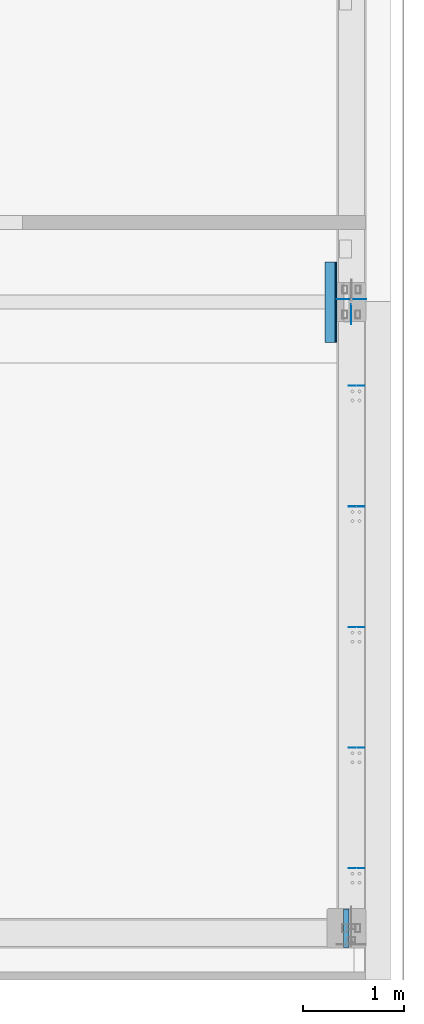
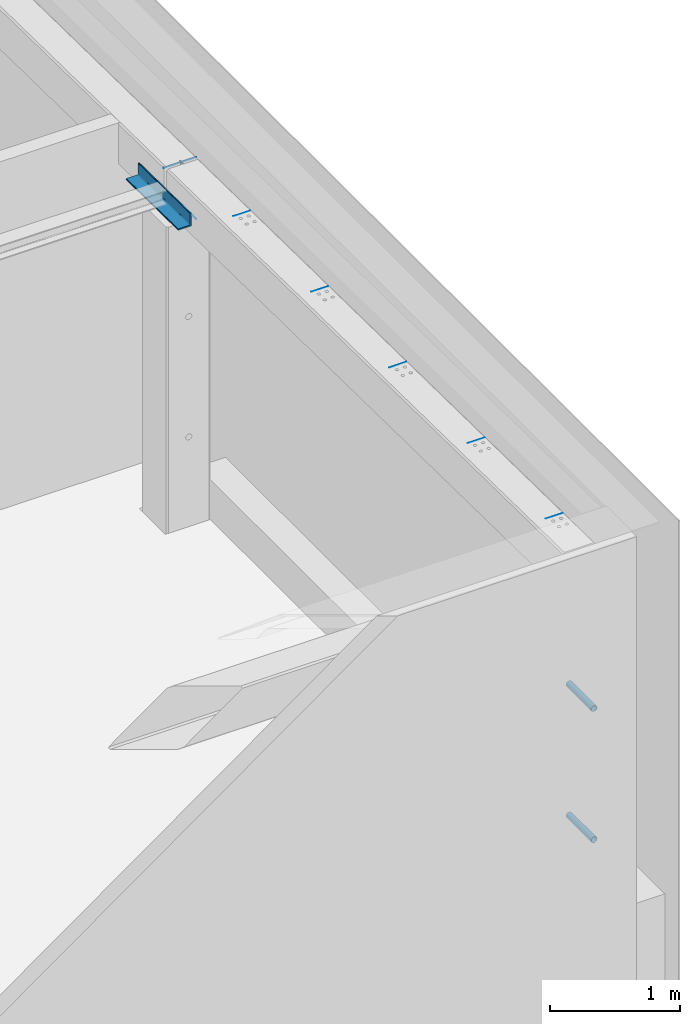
# One storey, part 26 of 186: 10 beams.
"""IFC4X3_ADD2 building model written with IfcOpenShell, lengths in millimetres."""

import ifcopenshell
import ifcopenshell.guid

model = None  # the IFC model being written
_history = None  # IfcOwnerHistory: only IFC2X3 demands one
_inside = {}  # id of a spatial element -> (the spatial element, [elements in it])
_under = {}  # id of a project, library or spatial element -> (it, [spatial elements below it])
_declared = {}  # id of a project -> (the project, [libraries it declares])
_typed = {}  # id of a type object -> (the type object, [elements of that type])
_made_of = {}  # id of a material, layer set ... -> (it, [elements and type objects made of it])


def new_model(schema):
    """Start an empty IFC model of exactly this schema.

    Asked for "IFC4X3", IfcOpenShell would pick the latest addendum, in which some entities
    have other attributes; the version numbers below select the first issue.
    IFC2X3 requires an IfcOwnerHistory on every rooted entity: one is made here for all.
    """
    global model, _history
    if schema == "IFC4X3":
        model = ifcopenshell.file(schema_version=(4, 3, 0, 0))
    else:
        model = ifcopenshell.file(schema=schema)
    _inside.clear()
    _under.clear()
    _declared.clear()
    _typed.clear()
    _made_of.clear()
    _history = None
    if model.schema == "IFC2X3":
        org = make("IfcOrganization", Name="unknown")
        user = make(
            "IfcPersonAndOrganization",
            ThePerson=make("IfcPerson", FamilyName="unknown"),
            TheOrganization=org,
        )
        app = make(
            "IfcApplication",
            ApplicationDeveloper=org,
            Version="unknown",
            ApplicationFullName="unknown",
            ApplicationIdentifier="unknown",
        )
        _history = make(
            "IfcOwnerHistory",
            OwningUser=user,
            OwningApplication=app,
            ChangeAction="ADDED",
            CreationDate=0,
        )
    return model


def make(cls, **values):
    """One entity of the class cls with the attributes given. An attribute that is None is left unset."""
    return model.create_entity(
        cls, **{name: value for name, value in values.items() if value is not None}
    )


def rooted(cls, **values):
    """An entity with a GlobalId (a new one), such as an element, a storey or a relation."""
    return make(cls, GlobalId=ifcopenshell.guid.new(), OwnerHistory=_history, **values)


def si_unit(unit_type, name, prefix=None):
    """IfcSIUnit, for example si_unit("LENGTHUNIT", "METRE", prefix="MILLI")."""
    return make("IfcSIUnit", UnitType=unit_type, Prefix=prefix, Name=name)


def assignment(units):
    """IfcUnitAssignment: the units of a project."""
    return None if units is None else make("IfcUnitAssignment", Units=units)


def point(xyz):
    """IfcCartesianPoint."""
    return None if xyz is None else make("IfcCartesianPoint", Coordinates=xyz)


def direction(xyz):
    """IfcDirection."""
    return None if xyz is None else make("IfcDirection", DirectionRatios=xyz)


def frame(location, z_axis=None, x_axis=None):
    """IfcAxis2Placement3D, a coordinate frame: its origin and axes. An axis left out is left unset."""
    return make(
        "IfcAxis2Placement3D",
        Location=point(location),
        Axis=direction(z_axis),
        RefDirection=direction(x_axis),
    )


def frame_2d(location, x_axis=None):
    """IfcAxis2Placement2D, a coordinate frame in the plane: its origin and x axis."""
    return make(
        "IfcAxis2Placement2D", Location=point(location), RefDirection=direction(x_axis)
    )


def origin_with_axes():
    """The frame at (0, 0, 0) with the z axis (0, 0, 1) and the x axis (1, 0, 0) written out."""
    return frame((0.0, 0.0, 0.0), z_axis=(0.0, 0.0, 1.0), x_axis=(1.0, 0.0, 0.0))


def place(relative_to, where):
    """IfcLocalPlacement: puts the frame where relative to a parent placement (None: the world)."""
    return make(
        "IfcLocalPlacement", PlacementRelTo=relative_to, RelativePlacement=where
    )


def context(
    kind, dimensions, precision=None, world=None, true_north=None, identifier=None
):
    """IfcGeometricRepresentationContext, for example the 3D "Model" context."""
    return make(
        "IfcGeometricRepresentationContext",
        ContextIdentifier=identifier,
        ContextType=kind,
        CoordinateSpaceDimension=dimensions,
        Precision=precision,
        WorldCoordinateSystem=world,
        TrueNorth=true_north,
    )


def subcontext(parent, identifier, kind, view, scale=None):
    """IfcGeometricRepresentationSubContext, for example "Body" below "Model"."""
    return make(
        "IfcGeometricRepresentationSubContext",
        ContextIdentifier=identifier,
        ContextType=kind,
        ParentContext=parent,
        TargetScale=scale,
        TargetView=view,
    )


def project(units=None, contexts=None):
    """IfcProject with its units and contexts."""
    return rooted(
        "IfcProject",
        Name="project",
        RepresentationContexts=contexts,
        UnitsInContext=assignment(units),
    )


def spatial(cls, under=None, at=None, **own):
    """A site, building, storey or space (cls), placed at a placement, below another one or the project."""
    s = rooted(cls, ObjectPlacement=at, **own)
    if under is not None:
        _under.setdefault(under.id(), (under, []))[1].append(s)
    return s


def profile(cls, at=None, kind="AREA", **sizes):
    """A parametric profile (cls). Its sizes go by their IFC names, for example OverallWidth=200.0."""
    return make(cls, ProfileType=kind, Position=at, **sizes)


def rectangle(**sizes):
    """IfcRectangleProfileDef."""
    return profile("IfcRectangleProfileDef", **sizes)


def hollow_circle(**sizes):
    """IfcCircleHollowProfileDef."""
    return profile("IfcCircleHollowProfileDef", **sizes)


def l_section(**sizes):
    """IfcLShapeProfileDef."""
    return profile("IfcLShapeProfileDef", **sizes)


def extrude(swept, where, along, depth):
    """IfcExtrudedAreaSolid: the profile swept, set in the frame where, extruded along a direction by depth."""
    return make(
        "IfcExtrudedAreaSolid",
        SweptArea=swept,
        Position=where,
        ExtrudedDirection=direction(along),
        Depth=depth,
    )


def shape(context_of_items, identifier, shape_type, items):
    """IfcShapeRepresentation: the items that make up one representation, for example the "Body"."""
    return make(
        "IfcShapeRepresentation",
        ContextOfItems=context_of_items,
        RepresentationIdentifier=identifier,
        RepresentationType=shape_type,
        Items=items,
    )


def material(Name=None, Category=None):
    """IfcMaterial."""
    return make("IfcMaterial", Name=Name, Category=Category)


def made_of(thing, what):
    """Note that an element or type object is made of a material, layer set ...; save() writes the relation."""
    if what is not None:
        _made_of.setdefault(what.id(), (what, []))[1].append(thing)
    return thing


def element(
    cls,
    number,
    at=None,
    inside=None,
    cuts=None,
    type_object=None,
    material=None,
    context=None,
    identifier="Body",
    shape_type=None,
    held_by="IfcProductDefinitionShape",
    body=None,
    shapes=None,
    **own,
):
    """One element of the class cls, such as IfcWall. Its Tag is "e" and its number.

    at: its placement. inside: the storey or other place that contains it. cuts: it is an
    opening in that element (IfcRelVoidsElement). A single representation is given by context,
    identifier, shape_type and body (its items); several are given by shapes. held_by: the class
    of the entity that holds the representations. save() writes the other relations.
    """
    e = rooted(cls, Tag="e%d" % number, ObjectPlacement=at, **own)
    if body is not None:
        shapes = [shape(context, identifier, shape_type, body)]
    if shapes is not None:
        e.Representation = make(held_by, Representations=shapes)
    if inside is not None:
        _inside.setdefault(inside.id(), (inside, []))[1].append(e)
    if cuts is not None:
        rooted(
            "IfcRelVoidsElement", RelatingBuildingElement=cuts, RelatedOpeningElement=e
        )
    if type_object is not None:
        _typed.setdefault(type_object.id(), (type_object, []))[1].append(e)
    return made_of(e, material)


def aggregate(whole, parts):
    """IfcRelAggregates: a whole, such as a stair, and the parts it consists of."""
    return rooted("IfcRelAggregates", RelatingObject=whole, RelatedObjects=parts)


def save(model, path):
    """Write the relations noted so far, then the file.

    IfcRelAggregates (storeys below a building ...), IfcRelContainedInSpatialStructure (elements
    in a storey), IfcRelDefinesByType, IfcRelAssociatesMaterial and IfcRelDeclares: one each for
    every whole, place, type object, material and project.
    """
    for whole, parts in _under.values():
        aggregate(whole, parts)
    for where, things in _inside.values():
        rooted(
            "IfcRelContainedInSpatialStructure",
            RelatedElements=things,
            RelatingStructure=where,
        )
    for kind, things in _typed.values():
        rooted("IfcRelDefinesByType", RelatedObjects=things, RelatingType=kind)
    for what, things in _made_of.values():
        rooted("IfcRelAssociatesMaterial", RelatedObjects=things, RelatingMaterial=what)
    for by, libraries in _declared.values():
        rooted("IfcRelDeclares", RelatingContext=by, RelatedDefinitions=libraries)
    model.write(path)


model = new_model("IFC4X3_ADD2")

# Units and contexts
model_context = context("Model", 3, precision=1e-05, world=origin_with_axes(), true_north=direction((0.0, 1.0)))
body_context = subcontext(model_context, "Body", "Model", "MODEL_VIEW")
ifc_project = project(units=[si_unit("LENGTHUNIT", "METRE", prefix="MILLI"), si_unit("AREAUNIT", "SQUARE_METRE"), si_unit("VOLUMEUNIT", "CUBIC_METRE"), si_unit("PLANEANGLEUNIT", "RADIAN"), si_unit("TIMEUNIT", "SECOND"), si_unit("MASSUNIT", "GRAM")], contexts=[model_context])

# Site, building, storey
site_placement = place(None, origin_with_axes())
site = spatial("IfcSite", under=ifc_project, at=site_placement, Name="Site", CompositionType="ELEMENT")
building_placement = place(site_placement, origin_with_axes())
building = spatial("IfcBuilding", under=site, at=building_placement, Name="IFC Building Story")
storey_placement = place(building_placement, frame((0.0, 0.0, 4370.0), z_axis=(0.0, 0.0, 1.0), x_axis=(1.0, 0.0, 0.0)))
storey = spatial("IfcBuildingStorey", under=building, at=storey_placement, Name="ETAGE 10 (1)", Elevation=4370.0)

# Beams
ifc_material_1 = material(Name="BS_28_Métal")
beam_1_placement = place(storey_placement, frame((48157.1909975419, -8435.014207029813, 3037.755712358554), z_axis=(0.0, 0.9998875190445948, -0.01499830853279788), x_axis=(-1.0, 0.0, 0.0)))
element("IfcBeam", 1, at=beam_1_placement, inside=storey, material=ifc_material_1, Name="C_28_104 - Cornière symétrique:L120x120x12", ObjectType="L120x120x12", context=body_context, shape_type="SweptSolid", body=[
    extrude(l_section(Depth=120.0000000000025, Width=120.0, Thickness=12.00000000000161, FilletRadius=13.0000000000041, EdgeRadius=4.799999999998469, LegSlope=0.0, at=frame_2d((0.0, 5.95523630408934e-12), x_axis=(1.0, 0.0))), origin_with_axes(), (0.0, 0.0, 1.0), 799.9999999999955),
])
ifc_material_2 = material(Name="STEEL/Accessory_invisible")
beam_2_placement = place(storey_placement, frame((48507.08869887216, -8005.25124303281, 3258.557194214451), z_axis=(-1.0, 0.0, 0.0), x_axis=(0.0, 1.0, 0.0)))
element("IfcBeam", 2, at=beam_2_placement, inside=storey, material=ifc_material_2, Name="ZW3", ObjectType="1*1 3", context=body_context, shape_type="SweptSolid", body=[
    extrude(rectangle(XDim=0.9999999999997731, YDim=0.9999999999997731, at=frame_2d((0.0, 5.95523630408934e-12), x_axis=(1.0, 0.0))), origin_with_axes(), (0.0, 0.0, 1.0), 289.9000000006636),
])
ifc_material_3 = material(Name="STEEL/Accessory_invisible 261")
beam_3_placement = place(storey_placement, frame((48360.6886992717, -8154.93548027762, 2880.31200773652), z_axis=(1.0, 0.0, 0.0), x_axis=(0.0, 0.01554157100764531, 0.9998792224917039)))
element("IfcBeam", 3, at=beam_3_placement, inside=storey, material=ifc_material_3, Name="BEK4", ObjectType="8*1", context=body_context, shape_type="SweptSolid", body=[
    extrude(rectangle(XDim=8.00000000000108, YDim=200.024108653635, at=frame_2d((0.0, 5.95523630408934e-12), x_axis=(1.0, 0.0))), origin_with_axes(), (0.0, 0.0, 1.0), 1.0),
])
for number, where, z_axis, x_axis, name in (
    (4, (48486.692835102, -10068.9766326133, 3305.71771397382), (-1.0, 0.0, 0.0), (0.0, 0.9998873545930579, -0.01500926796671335), "54"),
    (5, (48486.692835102, -11268.9773955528, 3324.368713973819), (-1.0, 0.0, 0.0), (0.0, 0.9998873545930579, -0.01500926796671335), "54"),
    (6, (48486.692835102, -12468.9762511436, 3343.02071397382), (-1.0, 0.0, 0.0), (0.0, 0.9998873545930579, -0.01500926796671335), "54"),
    (7, (48486.692835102, -13668.9770140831, 3361.67371397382), (-1.0, 0.0, 0.0), (0.0, 0.9998873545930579, -0.01500926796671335), "54"),
    (8, (48486.692835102, -8868.975869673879, 3287.06471397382), (-1.0, 0.0, 0.0), (0.0, 0.9998873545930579, -0.01500926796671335), "54"),
):
    element("IfcBeam", number, at=place(storey_placement, frame(where, z_axis=z_axis, x_axis=x_axis)), inside=storey, material=ifc_material_3, Name=name, ObjectType="1*1 3", context=body_context, shape_type="SweptSolid", body=[
        extrude(rectangle(XDim=0.9999999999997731, YDim=0.9999999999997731, at=frame_2d((0.0, 5.95523630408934e-12), x_axis=(1.0, 0.0))), origin_with_axes(), (0.0, 0.0, 1.0), 150.0),
    ])
ifc_material_4 = material(Name="STEEL/Accessory_PVC")
for number, where, z_axis, x_axis, name in (
    (9, (48311.18900000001, -14456.9999999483, 840.0), (0.0, 1.0, 0.0), (1.0, 0.0, 0.0), "PS13"),
    (10, (48311.18900000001, -14456.9999999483, 2070.0), (0.0, 1.0, 0.0), (1.0, 0.0, 0.0), "PS13"),
):
    element("IfcBeam", number, at=place(storey_placement, frame(where, z_axis=z_axis, x_axis=x_axis)), inside=storey, material=ifc_material_4, Name=name, ObjectType="O56*3", context=body_context, shape_type="SweptSolid", body=[
        extrude(hollow_circle(Radius=28.0, WallThickness=3.0, at=frame_2d((0.0, 5.95523630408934e-12), x_axis=(1.0, 0.0))), origin_with_axes(), (0.0, 0.0, 1.0), 384.0),
    ])

save(model, "model.ifc")
